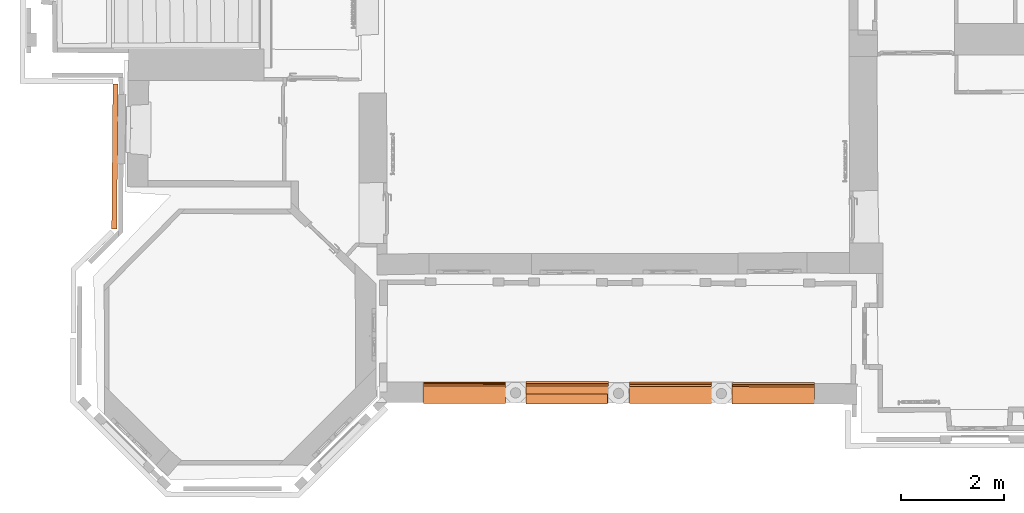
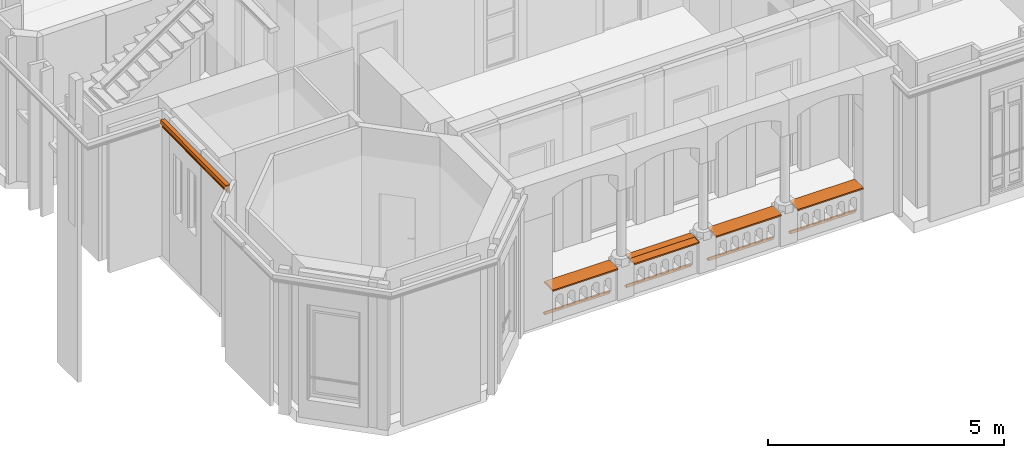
# One storey, part 57 of 66: 10 proxies.
"""IFC2X3 building model written with IfcOpenShell, lengths in centimetres."""

from ifc_helpers import new_model, entity, si_unit, converted_unit, point, direction, frame, frame_2d, origin, origin_with_axes, place, context, subcontext, project, spatial, polyline, circle_curve, trimmed, segment, composite_curve, outline, extrude, source, transform, mapped, material, type_object, element, save


model = new_model("IFC2X3")

# Units and contexts
model_context = context("Model", 3, precision=0.0001, world=origin(), true_north=direction((0.225632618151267, 0.974212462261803, 0.0)))
body_context = subcontext(model_context, "Body", "Model", "MODEL_VIEW")
ifc_project = project(units=[si_unit("LENGTHUNIT", "METRE", prefix="CENTI"), si_unit("AREAUNIT", "SQUARE_METRE", prefix="CENTI"), si_unit("VOLUMEUNIT", "CUBIC_METRE", prefix="CENTI"), converted_unit("PLANEANGLEUNIT", "DEGREE", entity("IfcRatioMeasure", 0.0174532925), si_unit("PLANEANGLEUNIT", "RADIAN"), dimensions=[0, 0, 0, 0, 0, 0, 0])], contexts=[model_context])

# Site, building, storey
site_placement = place(None, origin_with_axes())
site = spatial("IfcSite", under=ifc_project, at=site_placement, Name="Default Site", CompositionType="ELEMENT")
building_placement = place(site_placement, origin_with_axes())
building = spatial("IfcBuilding", under=site, at=building_placement, Name="Default Building", CompositionType="ELEMENT")
storey_placement = place(building_placement, frame((0.0, 0.0, 477.795358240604), z_axis=(0.0, 0.0, 1.0), x_axis=(1.0, 0.0, 0.0)))
storey = spatial("IfcBuildingStorey", under=building, at=storey_placement, Name="Niveau 1", CompositionType="ELEMENT", Elevation=477.795358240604)

# Proxies
ifc_material = material(Name="Aluminium mat")
building_element_proxy_type_1 = type_object("IfcBuildingElementProxyType", Name="Corniche niv1", PredefinedType="NOTDEFINED", material=ifc_material)
shared_shape_1 = source(origin_with_axes(), body_context, "Body", "SweptSolid", [
    extrude(outline(composite_curve([segment(trimmed(circle_curve(frame_2d((0.268889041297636, 10.5360105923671), x_axis=(1.0, 0.0)), 2.2994959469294), [point((1.31060948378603, 8.48601056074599))], [point((1.31060948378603, 12.5860106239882))], True, "CARTESIAN"), True, "CONTINUOUS"), segment(polyline([(1.31060948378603, 12.5860106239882), (-4.15787333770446, 12.5860106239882), (-4.15787333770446, -8.8139892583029), (5.82834186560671, -8.8139892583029), (5.82834186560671, 1.18601056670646), (-1.15787333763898, 1.18601056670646), (-1.15787333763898, 8.48601056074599), (1.31060948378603, 8.48601056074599)]), True, "CONTINUOUS")], self_intersect=False)), origin_with_axes(), (0.0, 0.0, 1.0), 100.0),
])
proxy_1_placement = place(storey_placement, frame((-1184.08603374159, -634.581476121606, 341.704641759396), z_axis=(-0.0086294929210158, -0.999959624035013, 0.00250642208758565), x_axis=(-0.999962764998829, 0.00862952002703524, 1.22460635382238e-16)))
element("IfcBuildingElementProxy", 1, at=proxy_1_placement, inside=storey, type_object=building_element_proxy_type_1, material=ifc_material, Name="Extrusion (solide) 449946", context=body_context, shape_type="MappedRepresentation", body=[
    mapped(shared_shape_1, transform((4.15787333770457, -12.5860106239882, 8.88178419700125e-14), x_axis=(1.0, -3.00348368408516e-21, -1.42779392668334e-18), y_axis=(-3.00348368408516e-21, 1.0, 0.0), z_axis=(2.16126101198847e-18, 0.0, -1.0), scale=1.0, scale2=1.0, scale3=2.81132827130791, uniform=False)),
])
building_element_proxy_type_2 = type_object("IfcBuildingElementProxyType", Name="Couvre-mur [P02] 300mm", PredefinedType="NOTDEFINED", material=ifc_material)
shared_shape_2 = source(origin_with_axes(), body_context, "Body", "SweptSolid", [
    extrude(outline(composite_curve([segment(trimmed(circle_curve(frame_2d((5.55111512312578e-15, -115.139878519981), x_axis=(1.0, 0.0)), 117.937499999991), [point((18.7499999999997, 1.29762148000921))], [point((-18.7499999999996, 1.29762148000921))], True, "CARTESIAN"), True, "CONTINUOUS"), segment(polyline([(-18.7499999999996, 1.29762148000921), (-18.7499999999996, -2.30237851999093), (18.7499999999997, -2.30237851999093), (18.7499999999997, 1.29762148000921)]), True, "CONTINUOUS")], self_intersect=False)), origin_with_axes(), (0.0, 0.0, 1.0), 100.0),
])
proxy_2_placement = place(storey_placement, frame((-390.500436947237, -936.552401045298, 83.0000042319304), z_axis=(-1.0, 0.0, 0.0), x_axis=(0.0, -1.0, 0.0)))
element("IfcBuildingElementProxy", 2, at=proxy_2_placement, inside=storey, type_object=building_element_proxy_type_2, material=ifc_material, Name="Extrusion (solide) 449433", context=body_context, shape_type="MappedRepresentation", body=[
    mapped(shared_shape_2, transform((18.7499999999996, 2.3023785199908, 0.0), x_axis=(1.0, 0.0, 0.0), y_axis=(0.0, 1.0, 0.0), z_axis=(0.0, 0.0, -1.0), scale=1.0, scale2=1.0, scale3=1.58070493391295, uniform=False)),
])
proxy_3_placement = place(storey_placement, frame((-589.589997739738, -935.211106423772, 83.0000042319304), z_axis=(-0.999999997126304, -7.58115605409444e-05, 0.0), x_axis=(7.58115605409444e-05, -0.999999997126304, 0.0)))
element("IfcBuildingElementProxy", 3, at=proxy_3_placement, inside=storey, type_object=building_element_proxy_type_2, material=ifc_material, Name="Extrusion (solide) 449434", context=body_context, shape_type="MappedRepresentation", body=[
    mapped(shared_shape_2, transform((18.7499999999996, 2.3023785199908, -8.88178419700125e-14), x_axis=(1.0, 0.0, -1.35525271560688e-20), y_axis=(0.0, 1.0, 0.0), z_axis=(0.0, 0.0, -1.0), scale=1.0, scale2=1.0, scale3=1.59690998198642, uniform=False)),
])
proxy_4_placement = place(storey_placement, frame((9.68412768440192, -936.619203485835, 83.0000042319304), z_axis=(-0.999999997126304, -7.58115605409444e-05, 0.0), x_axis=(7.58115605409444e-05, -0.999999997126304, 0.0)))
element("IfcBuildingElementProxy", 4, at=proxy_4_placement, inside=storey, type_object=building_element_proxy_type_2, material=ifc_material, Name="Extrusion (solide) 449488", context=body_context, shape_type="MappedRepresentation", body=[
    mapped(shared_shape_2, transform((18.7499999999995, 2.3023785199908, 0.0), x_axis=(1.0, 0.0, -1.35525271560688e-20), y_axis=(0.0, 1.0, 0.0), z_axis=(0.0, 0.0, -1.0), scale=1.0, scale2=1.0, scale3=1.59690998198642, uniform=False)),
])
proxy_5_placement = place(storey_placement, frame((-190.047164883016, -935.681288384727, 83.0000042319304), z_axis=(-0.999999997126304, -7.58115605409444e-05, 0.0), x_axis=(7.58115605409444e-05, -0.999999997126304, 0.0)))
element("IfcBuildingElementProxy", 5, at=proxy_5_placement, inside=storey, type_object=building_element_proxy_type_2, material=ifc_material, Name="Extrusion (solide) 449465", context=body_context, shape_type="MappedRepresentation", body=[
    mapped(shared_shape_2, transform((18.7499999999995, 2.3023785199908, -2.22044604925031e-14), x_axis=(1.0, 0.0, -1.35525271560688e-20), y_axis=(0.0, 1.0, 0.0), z_axis=(0.0, 0.0, -1.0), scale=1.0, scale2=1.0, scale3=1.59690998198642, uniform=False)),
])
proxy_6_placement = place(storey_placement, frame((-390.32776772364, -934.741547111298, 83.0000042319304), z_axis=(-0.999999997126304, -7.58115605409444e-05, 0.0), x_axis=(7.58115605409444e-05, -0.999999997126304, 0.0)))
element("IfcBuildingElementProxy", 6, at=proxy_6_placement, inside=storey, type_object=building_element_proxy_type_2, material=ifc_material, Name="Extrusion (solide) 449450", context=body_context, shape_type="MappedRepresentation", body=[
    mapped(shared_shape_2, transform((18.7499999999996, 2.3023785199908, 0.0), x_axis=(1.0, 0.0, -1.35525271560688e-20), y_axis=(0.0, 1.0, 0.0), z_axis=(0.0, 0.0, -1.0), scale=1.0, scale2=1.0, scale3=1.59690998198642, uniform=False)),
])
building_element_proxy_type_3 = type_object("IfcBuildingElementProxyType", Name="Base [P02] 80x80mm", PredefinedType="NOTDEFINED", material=ifc_material)
shared_shape_3 = source(origin_with_axes(), body_context, "Body", "SweptSolid", [
    extrude(outline(composite_curve([segment(trimmed(circle_curve(frame_2d((3.83771982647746, -3.83771982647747), x_axis=(1.0, 0.0)), 3.50000000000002), [point((0.337719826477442, -3.83771982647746))], [point((3.83771982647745, -0.337719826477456))], False, "CARTESIAN"), True, "CONTINUOUS"), segment(polyline([(3.83771982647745, -0.337719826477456), (3.83771982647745, 0.662280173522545), (4.83771982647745, 0.662280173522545), (4.83771982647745, 3.16228017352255), (-3.16228017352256, 3.16228017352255), (-3.16228017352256, -4.83771982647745), (-0.662280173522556, -4.83771982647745), (-0.662280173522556, -3.83771982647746), (0.337719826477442, -3.83771982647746)]), True, "CONTINUOUS")], self_intersect=False)), origin_with_axes(), (0.0, 0.0, 1.0), 100.0),
])
for number, where, z_axis, x_axis, name in (
    (7, (-429.895877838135, -931.288623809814, 2.00000232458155), (0.999999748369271, -0.000709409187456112, 0.0), (0.0, 6.12323293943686e-17, 1.0), "Extrusion (solide) 448653"),
    (8, (-230.633647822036, -930.819064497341, 2.00000232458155), (0.999999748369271, -0.000709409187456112, 0.0), (0.0, 6.12323293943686e-17, 1.0), "Extrusion (solide) 449444"),
):
    element("IfcBuildingElementProxy", number, at=place(storey_placement, frame(where, z_axis=z_axis, x_axis=x_axis)), inside=storey, type_object=building_element_proxy_type_3, material=ifc_material, Name=name, context=body_context, shape_type="MappedRepresentation", body=[
        mapped(shared_shape_3, transform((3.16228017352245, 4.83771982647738, 0.0), x_axis=(1.0, -1.23259516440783e-32, 4.3438777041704e-20), y_axis=(-1.23259516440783e-32, 1.0, 2.65985683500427e-36), z_axis=(-4.3438777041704e-20, -1.35868663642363e-19, -1.0), scale=1.0, scale2=1.0, scale3=1.59595618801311, uniform=False)),
    ])
proxy_7_placement = place(storey_placement, frame((169.378247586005, -932.696720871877, 2.00000232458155), z_axis=(0.999999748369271, -0.000709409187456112, 0.0), x_axis=(0.0, 6.12323293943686e-17, 1.0)))
element("IfcBuildingElementProxy", 9, at=proxy_7_placement, inside=storey, type_object=building_element_proxy_type_3, material=ifc_material, Name="Extrusion (solide) 449482", context=body_context, shape_type="MappedRepresentation", body=[
    mapped(shared_shape_3, transform((3.16228017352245, 4.83771982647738, -2.22044604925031e-14), x_axis=(1.0, -1.23259516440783e-32, 4.3438777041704e-20), y_axis=(-1.23259516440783e-32, 1.0, 2.65985683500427e-36), z_axis=(-4.3438777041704e-20, -1.35868663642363e-19, -1.0), scale=1.0, scale2=1.0, scale3=1.59595618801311, uniform=False)),
])
proxy_8_placement = place(storey_placement, frame((-30.3530449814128, -931.75880577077, 2.00000232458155), z_axis=(0.999999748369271, -0.000709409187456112, 0.0), x_axis=(0.0, 6.12323293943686e-17, 1.0)))
element("IfcBuildingElementProxy", 10, at=proxy_8_placement, inside=storey, type_object=building_element_proxy_type_3, material=ifc_material, Name="Extrusion (solide) 449459", context=body_context, shape_type="MappedRepresentation", body=[
    mapped(shared_shape_3, transform((3.16228017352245, 4.83771982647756, 5.55111512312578e-15), x_axis=(1.0, -1.23259516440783e-32, 4.3438777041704e-20), y_axis=(-1.23259516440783e-32, 1.0, 2.65985683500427e-36), z_axis=(-4.3438777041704e-20, -1.35868663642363e-19, -1.0), scale=1.0, scale2=1.0, scale3=1.59595618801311, uniform=False)),
])

save(model, "model.ifc")
